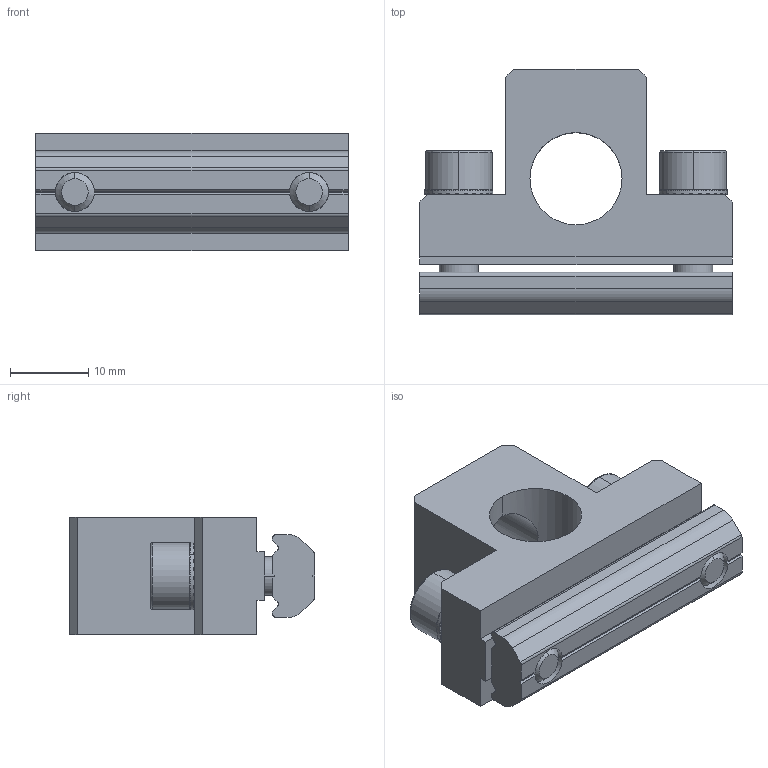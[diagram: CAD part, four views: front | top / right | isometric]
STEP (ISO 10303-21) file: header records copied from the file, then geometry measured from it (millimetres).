
FILE_DESCRIPTION (( 'STEP AP214' ), '1' );
FILE_NAME ('SVA-G14T.STEP', '2023-01-18T01:22:28', ( 'Windows User' ), ( 'P R C' ), 'SwSTEP 2.0', 'SolidWorks 2019', '' );
FILE_SCHEMA (( 'AUTOMOTIVE_DESIGN' ));
Length unit declared in the file: millimetre
Products named in the file (1): SVA-G14T
Bounding box: 40 x 31.4 x 15 mm (x, y, z)
Volume: 9686.5 mm3; surface area: 6547.2 mm2
Topology: 6 solids, 6 shells, 506 faces, 1469 edges, 970 vertices
Faces by surface type: plane 450, cylinder 48, cone 4, bspline 4
Entity records: 22832 total; most frequent: CARTESIAN_POINT 3478, ORIENTED_EDGE 2938, DIRECTION 2889, EDGE_CURVE 1469, VECTOR 971, LINE 971, VERTEX_POINT 970, AXIS2_PLACEMENT_3D 959
